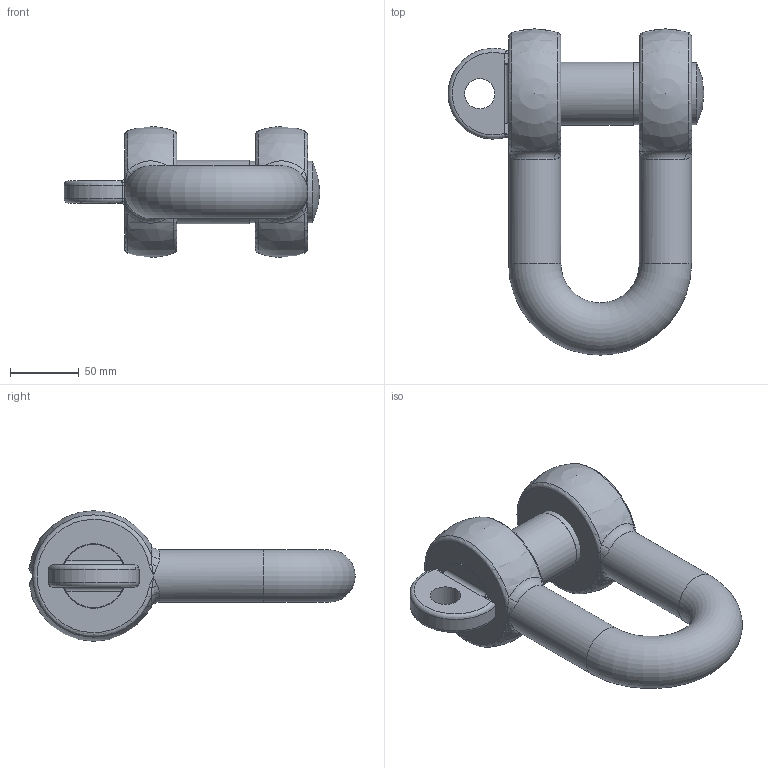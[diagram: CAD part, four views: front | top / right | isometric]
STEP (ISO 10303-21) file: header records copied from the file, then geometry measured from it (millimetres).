
FILE_DESCRIPTION(/* description */ (''),/* implementation_level */ '2;1');
FILE_NAME(/* name */ 'C:\Users\D\Documents\Inventor\HP\吊具\シャックル\SC_2\sc_38.stp',/* time_stamp */ '2024-11-14T11:46:24+09:00',/* author */ ('D'),/* organization */ (''),/* preprocessor_version */ 'ST-DEVELOPER v18',/* originating_system */ 'Autodesk Inventor 2020',/* authorisation */ '');
FILE_SCHEMA (('AUTOMOTIVE_DESIGN { 1 0 10303 214 3 1 1 }'));
Length unit declared in the file: millimetre
Products named in the file (3): sc_38; sb_6; bc-sc_pin_6
Assembly tree (2 placements, depth 2):
  sc_38
    sb_6
    bc-sc_pin_6
Bounding box: 186 x 237.15 x 95 mm (x, y, z)
Volume: 1001941.9 mm3; surface area: 113944.2 mm2
Topology: 2 solids, 2 shells, 69 faces, 185 edges, 96 vertices
Faces by surface type: bspline 28, cylinder 16, torus 11, plane 10, sphere 3, cone 1
Full cylindrical faces by diameter (mm): 22 x1, 38 x2, 40.129 x1, 45 x1, 46 x1, 47 x1
Entity records: 3107 total; most frequent: CARTESIAN_POINT 1553, ORIENTED_EDGE 322, DIRECTION 278, EDGE_CURVE 161, AXIS2_PLACEMENT_3D 127, VERTEX_POINT 96, CIRCLE 81, EDGE_LOOP 75
